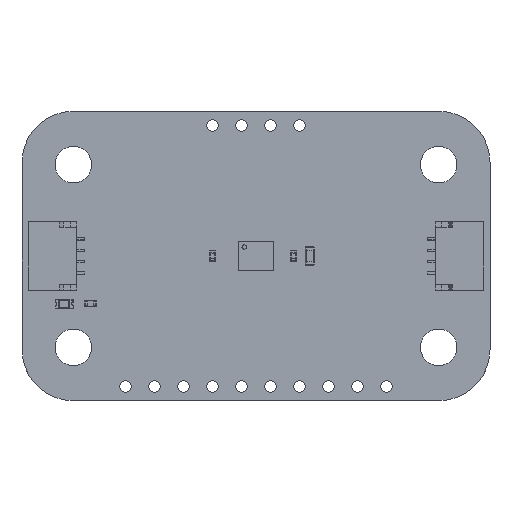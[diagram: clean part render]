
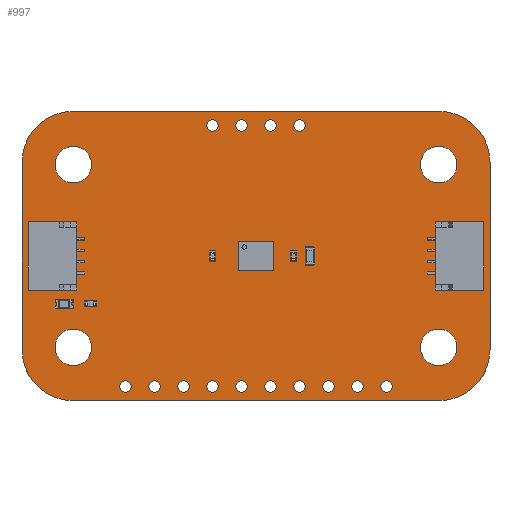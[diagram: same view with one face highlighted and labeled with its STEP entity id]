
A CAD part, top view. The second image highlights one B-rep face of the part: STEP entity #997.
In plain terms, the highlighted planar face has unit normal (0, 0, 1).
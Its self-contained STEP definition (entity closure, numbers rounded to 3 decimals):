
#84 = VERTEX_POINT('',#85);
#85 = CARTESIAN_POINT('',(0.,4.5,1.606));
#91 = EDGE_CURVE('',#84,#92,#94,.T.);
#92 = VERTEX_POINT('',#93);
#93 = CARTESIAN_POINT('',(4.5,0.,1.606));
#94 = CIRCLE('',#95,4.5);
#95 = AXIS2_PLACEMENT_3D('',#96,#97,#98);
#96 = CARTESIAN_POINT('',(4.5,4.5,1.606));
#97 = DIRECTION('',(0.,0.,1.));
#98 = DIRECTION('',(-1.,0.,0.));
#124 = EDGE_CURVE('',#92,#125,#127,.T.);
#125 = VERTEX_POINT('',#126);
#126 = CARTESIAN_POINT('',(36.5,0.,1.606));
#127 = LINE('',#128,#129);
#128 = CARTESIAN_POINT('',(4.5,0.,1.606));
#129 = VECTOR('',#130,1.);
#130 = DIRECTION('',(1.,0.,0.));
#155 = EDGE_CURVE('',#125,#156,#158,.T.);
#156 = VERTEX_POINT('',#157);
#157 = CARTESIAN_POINT('',(41.,4.5,1.606));
#158 = CIRCLE('',#159,4.5);
#159 = AXIS2_PLACEMENT_3D('',#160,#161,#162);
#160 = CARTESIAN_POINT('',(36.5,4.5,1.606));
#161 = DIRECTION('',(0.,0.,1.));
#162 = DIRECTION('',(0.,-1.,0.));
#188 = EDGE_CURVE('',#156,#189,#191,.T.);
#189 = VERTEX_POINT('',#190);
#190 = CARTESIAN_POINT('',(41.,20.86,1.606));
#191 = LINE('',#192,#193);
#192 = CARTESIAN_POINT('',(41.,4.5,1.606));
#193 = VECTOR('',#194,1.);
#194 = DIRECTION('',(0.,1.,0.));
#219 = EDGE_CURVE('',#189,#220,#222,.T.);
#220 = VERTEX_POINT('',#221);
#221 = CARTESIAN_POINT('',(36.5,25.36,1.606));
#222 = CIRCLE('',#223,4.5);
#223 = AXIS2_PLACEMENT_3D('',#224,#225,#226);
#224 = CARTESIAN_POINT('',(36.5,20.86,1.606));
#225 = DIRECTION('',(0.,0.,1.));
#226 = DIRECTION('',(1.,0.,0.));
#252 = EDGE_CURVE('',#220,#253,#255,.T.);
#253 = VERTEX_POINT('',#254);
#254 = CARTESIAN_POINT('',(4.5,25.36,1.606));
#255 = LINE('',#256,#257);
#256 = CARTESIAN_POINT('',(36.5,25.36,1.606));
#257 = VECTOR('',#258,1.);
#258 = DIRECTION('',(-1.,0.,0.));
#283 = EDGE_CURVE('',#253,#284,#286,.T.);
#284 = VERTEX_POINT('',#285);
#285 = CARTESIAN_POINT('',(0.,20.86,1.606));
#286 = CIRCLE('',#287,4.5);
#287 = AXIS2_PLACEMENT_3D('',#288,#289,#290);
#288 = CARTESIAN_POINT('',(4.5,20.86,1.606));
#289 = DIRECTION('',(0.,0.,1.));
#290 = DIRECTION('',(0.,1.,-0.));
#316 = EDGE_CURVE('',#284,#84,#317,.T.);
#317 = LINE('',#318,#319);
#318 = CARTESIAN_POINT('',(0.,20.86,1.606));
#319 = VECTOR('',#320,1.);
#320 = DIRECTION('',(0.,-1.,0.));
#340 = VERTEX_POINT('',#341);
#341 = CARTESIAN_POINT('',(12.11,1.25,1.606));
#347 = EDGE_CURVE('',#340,#340,#348,.T.);
#348 = CIRCLE('',#349,0.5);
#349 = AXIS2_PLACEMENT_3D('',#350,#351,#352);
#350 = CARTESIAN_POINT('',(11.61,1.25,1.606));
#351 = DIRECTION('',(0.,0.,1.));
#352 = DIRECTION('',(1.,0.,-0.));
#373 = VERTEX_POINT('',#374);
#374 = CARTESIAN_POINT('',(9.57,1.25,1.606));
#380 = EDGE_CURVE('',#373,#373,#381,.T.);
#381 = CIRCLE('',#382,0.5);
#382 = AXIS2_PLACEMENT_3D('',#383,#384,#385);
#383 = CARTESIAN_POINT('',(9.07,1.25,1.606));
#384 = DIRECTION('',(0.,0.,1.));
#385 = DIRECTION('',(1.,0.,-0.));
#406 = VERTEX_POINT('',#407);
#407 = CARTESIAN_POINT('',(17.19,1.25,1.606));
#413 = EDGE_CURVE('',#406,#406,#414,.T.);
#414 = CIRCLE('',#415,0.5);
#415 = AXIS2_PLACEMENT_3D('',#416,#417,#418);
#416 = CARTESIAN_POINT('',(16.69,1.25,1.606));
#417 = DIRECTION('',(0.,0.,1.));
#418 = DIRECTION('',(1.,0.,-0.));
#439 = VERTEX_POINT('',#440);
#440 = CARTESIAN_POINT('',(14.65,1.25,1.606));
#446 = EDGE_CURVE('',#439,#439,#447,.T.);
#447 = CIRCLE('',#448,0.5);
#448 = AXIS2_PLACEMENT_3D('',#449,#450,#451);
#449 = CARTESIAN_POINT('',(14.15,1.25,1.606));
#450 = DIRECTION('',(0.,0.,1.));
#451 = DIRECTION('',(1.,0.,-0.));
#472 = VERTEX_POINT('',#473);
#473 = CARTESIAN_POINT('',(6.1,4.68,1.606));
#479 = EDGE_CURVE('',#472,#472,#480,.T.);
#480 = CIRCLE('',#481,1.6);
#481 = AXIS2_PLACEMENT_3D('',#482,#483,#484);
#482 = CARTESIAN_POINT('',(4.5,4.68,1.606));
#483 = DIRECTION('',(0.,0.,1.));
#484 = DIRECTION('',(1.,0.,-0.));
#505 = VERTEX_POINT('',#506);
#506 = CARTESIAN_POINT('',(6.1,20.68,1.606));
#512 = EDGE_CURVE('',#505,#505,#513,.T.);
#513 = CIRCLE('',#514,1.6);
#514 = AXIS2_PLACEMENT_3D('',#515,#516,#517);
#515 = CARTESIAN_POINT('',(4.5,20.68,1.606));
#516 = DIRECTION('',(0.,0.,1.));
#517 = DIRECTION('',(1.,0.,-0.));
#538 = VERTEX_POINT('',#539);
#539 = CARTESIAN_POINT('',(19.73,1.25,1.606));
#545 = EDGE_CURVE('',#538,#538,#546,.T.);
#546 = CIRCLE('',#547,0.5);
#547 = AXIS2_PLACEMENT_3D('',#548,#549,#550);
#548 = CARTESIAN_POINT('',(19.23,1.25,1.606));
#549 = DIRECTION('',(0.,0.,1.));
#550 = DIRECTION('',(1.,0.,-0.));
#571 = VERTEX_POINT('',#572);
#572 = CARTESIAN_POINT('',(17.19,24.11,1.606));
#578 = EDGE_CURVE('',#571,#571,#579,.T.);
#579 = CIRCLE('',#580,0.5);
#580 = AXIS2_PLACEMENT_3D('',#581,#582,#583);
#581 = CARTESIAN_POINT('',(16.69,24.11,1.606));
#582 = DIRECTION('',(0.,0.,1.));
#583 = DIRECTION('',(1.,0.,-0.));
#604 = VERTEX_POINT('',#605);
#605 = CARTESIAN_POINT('',(19.73,24.11,1.606));
#611 = EDGE_CURVE('',#604,#604,#612,.T.);
#612 = CIRCLE('',#613,0.5);
#613 = AXIS2_PLACEMENT_3D('',#614,#615,#616);
#614 = CARTESIAN_POINT('',(19.23,24.11,1.606));
#615 = DIRECTION('',(0.,0.,1.));
#616 = DIRECTION('',(1.,0.,-0.));
#637 = VERTEX_POINT('',#638);
#638 = CARTESIAN_POINT('',(24.81,1.25,1.606));
#644 = EDGE_CURVE('',#637,#637,#645,.T.);
#645 = CIRCLE('',#646,0.5);
#646 = AXIS2_PLACEMENT_3D('',#647,#648,#649);
#647 = CARTESIAN_POINT('',(24.31,1.25,1.606));
#648 = DIRECTION('',(0.,0.,1.));
#649 = DIRECTION('',(1.,0.,-0.));
#670 = VERTEX_POINT('',#671);
#671 = CARTESIAN_POINT('',(22.27,1.25,1.606));
#677 = EDGE_CURVE('',#670,#670,#678,.T.);
#678 = CIRCLE('',#679,0.5);
#679 = AXIS2_PLACEMENT_3D('',#680,#681,#682);
#680 = CARTESIAN_POINT('',(21.77,1.25,1.606));
#681 = DIRECTION('',(0.,0.,1.));
#682 = DIRECTION('',(1.,0.,-0.));
#703 = VERTEX_POINT('',#704);
#704 = CARTESIAN_POINT('',(29.89,1.25,1.606));
#710 = EDGE_CURVE('',#703,#703,#711,.T.);
#711 = CIRCLE('',#712,0.5);
#712 = AXIS2_PLACEMENT_3D('',#713,#714,#715);
#713 = CARTESIAN_POINT('',(29.39,1.25,1.606));
#714 = DIRECTION('',(0.,0.,1.));
#715 = DIRECTION('',(1.,0.,-0.));
#736 = VERTEX_POINT('',#737);
#737 = CARTESIAN_POINT('',(27.35,1.25,1.606));
#743 = EDGE_CURVE('',#736,#736,#744,.T.);
#744 = CIRCLE('',#745,0.5);
#745 = AXIS2_PLACEMENT_3D('',#746,#747,#748);
#746 = CARTESIAN_POINT('',(26.85,1.25,1.606));
#747 = DIRECTION('',(0.,0.,1.));
#748 = DIRECTION('',(1.,0.,-0.));
#769 = VERTEX_POINT('',#770);
#770 = CARTESIAN_POINT('',(24.81,24.11,1.606));
#776 = EDGE_CURVE('',#769,#769,#777,.T.);
#777 = CIRCLE('',#778,0.5);
#778 = AXIS2_PLACEMENT_3D('',#779,#780,#781);
#779 = CARTESIAN_POINT('',(24.31,24.11,1.606));
#780 = DIRECTION('',(0.,0.,1.));
#781 = DIRECTION('',(1.,0.,-0.));
#802 = VERTEX_POINT('',#803);
#803 = CARTESIAN_POINT('',(22.27,24.11,1.606));
#809 = EDGE_CURVE('',#802,#802,#810,.T.);
#810 = CIRCLE('',#811,0.5);
#811 = AXIS2_PLACEMENT_3D('',#812,#813,#814);
#812 = CARTESIAN_POINT('',(21.77,24.11,1.606));
#813 = DIRECTION('',(0.,0.,1.));
#814 = DIRECTION('',(1.,0.,-0.));
#835 = VERTEX_POINT('',#836);
#836 = CARTESIAN_POINT('',(32.43,1.25,1.606));
#842 = EDGE_CURVE('',#835,#835,#843,.T.);
#843 = CIRCLE('',#844,0.5);
#844 = AXIS2_PLACEMENT_3D('',#845,#846,#847);
#845 = CARTESIAN_POINT('',(31.93,1.25,1.606));
#846 = DIRECTION('',(0.,0.,1.));
#847 = DIRECTION('',(1.,0.,-0.));
#868 = VERTEX_POINT('',#869);
#869 = CARTESIAN_POINT('',(38.1,20.68,1.606));
#875 = EDGE_CURVE('',#868,#868,#876,.T.);
#876 = CIRCLE('',#877,1.6);
#877 = AXIS2_PLACEMENT_3D('',#878,#879,#880);
#878 = CARTESIAN_POINT('',(36.5,20.68,1.606));
#879 = DIRECTION('',(0.,0.,1.));
#880 = DIRECTION('',(1.,0.,-0.));
#901 = VERTEX_POINT('',#902);
#902 = CARTESIAN_POINT('',(38.1,4.68,1.606));
#908 = EDGE_CURVE('',#901,#901,#909,.T.);
#909 = CIRCLE('',#910,1.6);
#910 = AXIS2_PLACEMENT_3D('',#911,#912,#913);
#911 = CARTESIAN_POINT('',(36.5,4.68,1.606));
#912 = DIRECTION('',(0.,0.,1.));
#913 = DIRECTION('',(1.,0.,-0.));
#997 = ADVANCED_FACE('',(#998,#1008,#1011,#1014,#1017,#1020,#1023,#1026,
    #1029,#1032,#1035,#1038,#1041,#1044,#1047,#1050,#1053,#1056,#1059),
  #1062,.T.);
#998 = FACE_BOUND('',#999,.T.);
#999 = EDGE_LOOP('',(#1000,#1001,#1002,#1003,#1004,#1005,#1006,#1007));
#1000 = ORIENTED_EDGE('',*,*,#91,.T.);
#1001 = ORIENTED_EDGE('',*,*,#124,.T.);
#1002 = ORIENTED_EDGE('',*,*,#155,.T.);
#1003 = ORIENTED_EDGE('',*,*,#188,.T.);
#1004 = ORIENTED_EDGE('',*,*,#219,.T.);
#1005 = ORIENTED_EDGE('',*,*,#252,.T.);
#1006 = ORIENTED_EDGE('',*,*,#283,.T.);
#1007 = ORIENTED_EDGE('',*,*,#316,.T.);
#1008 = FACE_BOUND('',#1009,.T.);
#1009 = EDGE_LOOP('',(#1010));
#1010 = ORIENTED_EDGE('',*,*,#347,.F.);
#1011 = FACE_BOUND('',#1012,.T.);
#1012 = EDGE_LOOP('',(#1013));
#1013 = ORIENTED_EDGE('',*,*,#380,.F.);
#1014 = FACE_BOUND('',#1015,.T.);
#1015 = EDGE_LOOP('',(#1016));
#1016 = ORIENTED_EDGE('',*,*,#413,.F.);
#1017 = FACE_BOUND('',#1018,.T.);
#1018 = EDGE_LOOP('',(#1019));
#1019 = ORIENTED_EDGE('',*,*,#446,.F.);
#1020 = FACE_BOUND('',#1021,.T.);
#1021 = EDGE_LOOP('',(#1022));
#1022 = ORIENTED_EDGE('',*,*,#479,.F.);
#1023 = FACE_BOUND('',#1024,.T.);
#1024 = EDGE_LOOP('',(#1025));
#1025 = ORIENTED_EDGE('',*,*,#512,.F.);
#1026 = FACE_BOUND('',#1027,.T.);
#1027 = EDGE_LOOP('',(#1028));
#1028 = ORIENTED_EDGE('',*,*,#545,.F.);
#1029 = FACE_BOUND('',#1030,.T.);
#1030 = EDGE_LOOP('',(#1031));
#1031 = ORIENTED_EDGE('',*,*,#578,.F.);
#1032 = FACE_BOUND('',#1033,.T.);
#1033 = EDGE_LOOP('',(#1034));
#1034 = ORIENTED_EDGE('',*,*,#611,.F.);
#1035 = FACE_BOUND('',#1036,.T.);
#1036 = EDGE_LOOP('',(#1037));
#1037 = ORIENTED_EDGE('',*,*,#644,.F.);
#1038 = FACE_BOUND('',#1039,.T.);
#1039 = EDGE_LOOP('',(#1040));
#1040 = ORIENTED_EDGE('',*,*,#677,.F.);
#1041 = FACE_BOUND('',#1042,.T.);
#1042 = EDGE_LOOP('',(#1043));
#1043 = ORIENTED_EDGE('',*,*,#710,.F.);
#1044 = FACE_BOUND('',#1045,.T.);
#1045 = EDGE_LOOP('',(#1046));
#1046 = ORIENTED_EDGE('',*,*,#743,.F.);
#1047 = FACE_BOUND('',#1048,.T.);
#1048 = EDGE_LOOP('',(#1049));
#1049 = ORIENTED_EDGE('',*,*,#776,.F.);
#1050 = FACE_BOUND('',#1051,.T.);
#1051 = EDGE_LOOP('',(#1052));
#1052 = ORIENTED_EDGE('',*,*,#809,.F.);
#1053 = FACE_BOUND('',#1054,.T.);
#1054 = EDGE_LOOP('',(#1055));
#1055 = ORIENTED_EDGE('',*,*,#842,.F.);
#1056 = FACE_BOUND('',#1057,.T.);
#1057 = EDGE_LOOP('',(#1058));
#1058 = ORIENTED_EDGE('',*,*,#875,.F.);
#1059 = FACE_BOUND('',#1060,.T.);
#1060 = EDGE_LOOP('',(#1061));
#1061 = ORIENTED_EDGE('',*,*,#908,.F.);
#1062 = PLANE('',#1063);
#1063 = AXIS2_PLACEMENT_3D('',#1064,#1065,#1066);
#1064 = CARTESIAN_POINT('',(20.5,12.68,1.606));
#1065 = DIRECTION('',(0.,0.,1.));
#1066 = DIRECTION('',(1.,0.,-0.));
